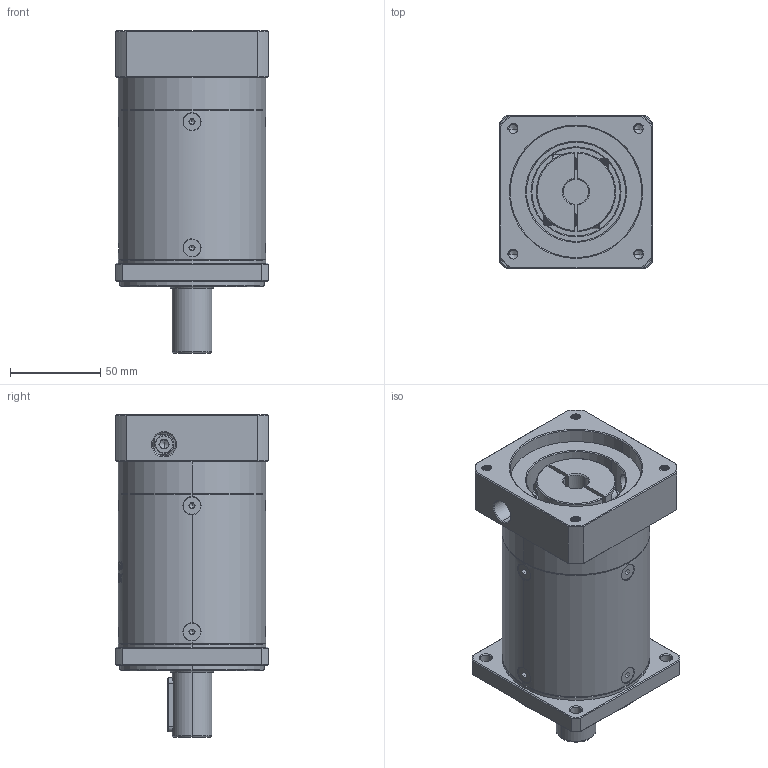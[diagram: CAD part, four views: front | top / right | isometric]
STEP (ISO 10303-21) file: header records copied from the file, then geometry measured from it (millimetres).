
FILE_DESCRIPTION (( 'STEP AP214' ), '1' );
FILE_NAME ('ZF080-D22-L3-P2-14-73-69.6X69.6-M6.step', '2023-08-19T05:33:24', ( '' ), ( '' ), 'SwSTEP 2.0', 'SolidWorks 2016', '' );
FILE_SCHEMA (( 'AUTOMOTIVE_DESIGN' ));
Length unit declared in the file: millimetre
Products named in the file (1): ZF080-D22-L3-P2-14-73-69.6X69.6-M6
Bounding box: 85 x 85 x 179 mm (x, y, z)
Volume: 751646.5 mm3; surface area: 99023.9 mm2
Topology: 13 solids, 13 shells, 2231 faces, 5838 edges, 3706 vertices
Faces by surface type: plane 1071, bspline 394, cylinder 390, cone 339, torus 37
Entity records: 119113 total; most frequent: CARTESIAN_POINT 44754, ORIENTED_EDGE 11616, DIRECTION 8616, EDGE_CURVE 5808, VERTEX_POINT 3706, LINE 3088, VECTOR 3088, AXIS2_PLACEMENT_3D 2764
